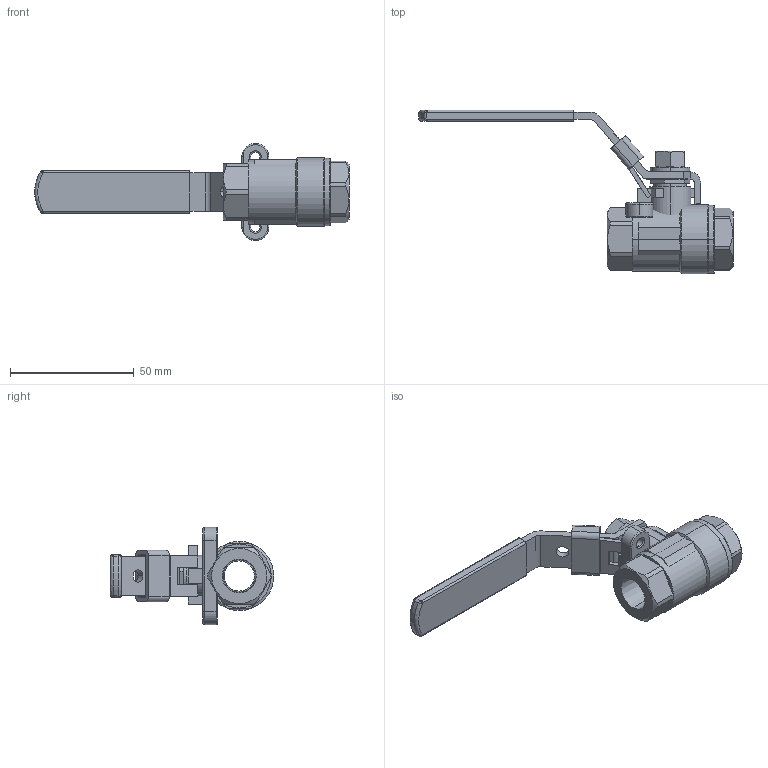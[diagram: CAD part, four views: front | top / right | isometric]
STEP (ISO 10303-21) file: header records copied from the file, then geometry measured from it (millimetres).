
FILE_DESCRIPTION (( 'STEP AP203' ), '1' );
FILE_NAME ('S2S-2.STEP', '2018-07-25T18:09:27', ( '' ), ( '' ), 'SwSTEP 2.0', 'SolidWorks 2017', '' );
FILE_SCHEMA (( 'CONFIG_CONTROL_DESIGN' ));
Length unit declared in the file: inch
Products named in the file (10): m8 HEX NUT_91028A664; S2S-2_3_1-4<As Machined>; S2S-2; lockinghandle-s2s-small; m8 STAINLESS STEEL FLAT WASHER; m8 HEX NUT; S2S-2_3; lockinghandle-s2s-small_lock on; m8 STAINLESS STEEL FLAT WASHER_90965A190
Assembly tree (5 placements, depth 2):
  S2S-2
    lockinghandle-s2s-small_lock on
    m8 STAINLESS STEEL FLAT WASHER_90965A190
    m8 HEX NUT_91028A664
    S2S-2_3_1-4<As Machined>
  lockinghandle-s2s-small
  m8 STAINLESS STEEL FLAT WASHER
  S2S-2_3
  S2S-2
    m8 HEX NUT
Bounding box: 127.21 x 66.17 x 39.37 mm (x, y, z)
Volume: 34861.3 mm3; surface area: 20634.4 mm2
Topology: 16 solids, 16 shells, 432 faces, 1113 edges, 716 vertices
Faces by surface type: cylinder 142, plane 129, bspline 101, cone 40, torus 20
Entity records: 52009 total; most frequent: CARTESIAN_POINT 41792, ORIENTED_EDGE 2216, DIRECTION 1628, EDGE_CURVE 1108, VERTEX_POINT 714, AXIS2_PLACEMENT_3D 602, EDGE_LOOP 456, ADVANCED_FACE 432
